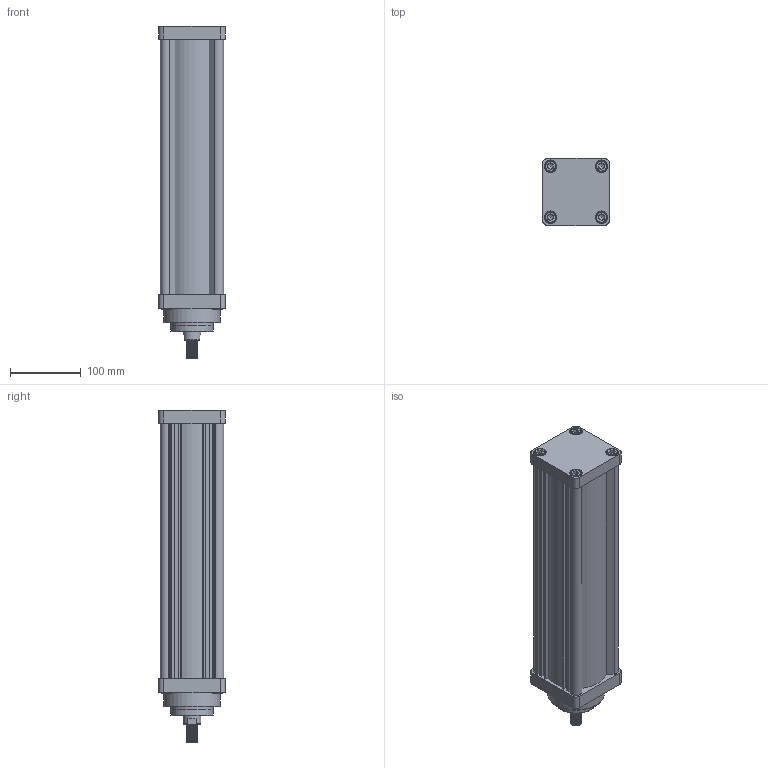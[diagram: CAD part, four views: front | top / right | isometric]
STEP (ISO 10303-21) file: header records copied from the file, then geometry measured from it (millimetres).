
FILE_DESCRIPTION(/* description */ (''),/* implementation_level */ '2;1');
FILE_NAME(/* name */ 'TLSK_2K_80_600.step',/* time_stamp */ '2023-01-07T18:44:53+03:00',/* author */ (''),/* organization */ (''),/* preprocessor_version */ 'ST-DEVELOPER v19.2',/* originating_system */ 'Autodesk Translation Framework v11.17.0.187',/* authorisation */ '');
FILE_SCHEMA (('AUTOMOTIVE_DESIGN { 1 0 10303 214 3 1 1 }'));
Length unit declared in the file: millimetre
Products named in the file (16): TLSK_2K_80_600_WEB; socket head cap screw_am; 80_ON_KAPAK_OZEL; 80_ARKA_KAPAK_OZEL; 50_2800_boru_kapak_teleskopik; K103-060; KO-50X2_5; 50_2800_KECE_YATAGI_teleskopik_mil; pap_25_28_12; K52-25X30X4-5_2; K62-40X50X3_2; K69-50X46X15_2; socket head cap screw_am(Ayna); 80_600_boru_web; 56_60_boru_web; 25_MİL_web
Assembly tree (22 placements, depth 2):
  TLSK_2K_80_600_WEB
    socket head cap screw_am  x6
    80_ON_KAPAK_OZEL
    80_ARKA_KAPAK_OZEL
    50_2800_boru_kapak_teleskopik
    K103-060
    KO-50X2_5
    50_2800_KECE_YATAGI_teleskopik_mil
    pap_25_28_12
    K52-25X30X4-5_2
    K62-40X50X3_2
    K69-50X46X15_2  x2
    socket head cap screw_am(Ayna)  x2
    80_600_boru_web
    56_60_boru_web
    25_MİL_web
Bounding box: 94 x 94 x 468.2 mm (x, y, z)
Volume: 1122782.1 mm3; surface area: 435490.1 mm2
Topology: 17 solids, 17 shells, 992 faces, 2590 edges, 1700 vertices
Faces by surface type: plane 376, bspline 340, cylinder 208, cone 49, torus 19
Full cylindrical faces by diameter (mm): 4 x2, 5 x4, 8.8 x6, 10 x8, 10.5 x8, 14.376 x15, 16 x24, 17.8 x8, 25 x2, 25.417 x1, 25.75 x1, 26 x1, 26.9 x1, 28 x2, 30 x1, 30.25 x1, 30.417 x1, 49.6 x1, 50 x1, 54 x1, 54.917 x9, 55.917 x8, 56 x10, 57 x9, 60 x2, 60.2 x1, 60.601 x1, 60.8 x1, 64 x1, 65 x1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
Entity records: 36646 total; most frequent: CARTESIAN_POINT 16813, ORIENTED_EDGE 4624, DIRECTION 2933, EDGE_CURVE 2312, VERTEX_POINT 1532, LINE 1127, VECTOR 1127, EDGE_LOOP 980
